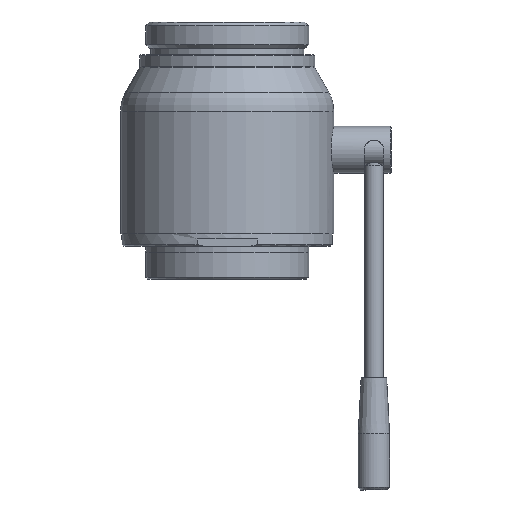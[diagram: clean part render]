
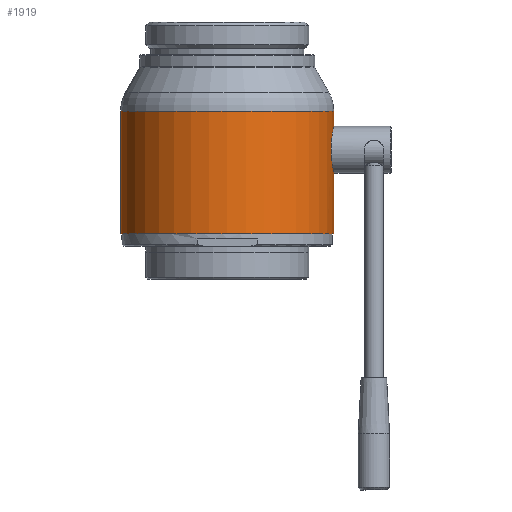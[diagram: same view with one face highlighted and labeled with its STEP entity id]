
A CAD part, left-side view. The second image highlights one B-rep face of the part: STEP entity #1919.
In plain terms, the highlighted cylindrical face has radius 85 mm (diameter 170 mm), a full revolution.
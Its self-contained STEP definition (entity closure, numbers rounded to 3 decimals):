
#87=B_SPLINE_CURVE_WITH_KNOTS('',3,(#4294,#4295,#4296,#4297,#4298,#4299,
#4300,#4301,#4302,#4303,#4304,#4305,#4306,#4307,#4308,#4309,#4310,#4311,
#4312,#4313,#4314,#4315,#4316,#4317,#4318,#4319,#4320,#4321,#4322,#4323,
#4324,#4325,#4326),.UNSPECIFIED.,.T.,.F.,(1,1,1,1,1,1,1,1,1,1,1,1,1,1,1,
1,1,1,1,1,1,1,1,1,1,1,1,1,1,1,1,1,1,1,1,1,1),(-0.015,-0.011,
-0.007,0.,0.004,0.007,
0.011,0.015,0.019,0.022,
0.026,0.03,0.034,0.037,
0.041,0.045,0.048,0.052,
0.056,0.06,0.067,0.071,
0.074,0.078,0.082,0.086,
0.089,0.093,0.097,0.101,
0.104,0.108,0.112,0.119,
0.123,0.127,0.13),.UNSPECIFIED.);
#245=ORIENTED_EDGE('',*,*,#666,.F.);
#246=ORIENTED_EDGE('',*,*,#668,.T.);
#247=ORIENTED_EDGE('',*,*,#662,.F.);
#662=EDGE_CURVE('',#879,#879,#1068,.T.);
#666=EDGE_CURVE('',#883,#883,#87,.T.);
#668=EDGE_CURVE('',#885,#885,#1072,.T.);
#879=VERTEX_POINT('',#4284);
#883=VERTEX_POINT('',#4327);
#885=VERTEX_POINT('',#4364);
#1068=CIRCLE('',#3232,85.);
#1072=CIRCLE('',#3240,85.);
#1251=EDGE_LOOP('',(#245));
#1252=EDGE_LOOP('',(#246));
#1253=EDGE_LOOP('',(#247));
#1564=FACE_BOUND('',#1251,.T.);
#1565=FACE_BOUND('',#1252,.T.);
#1566=FACE_BOUND('',#1253,.T.);
#1856=CYLINDRICAL_SURFACE('',#3239,85.);
#1919=ADVANCED_FACE('',(#1564,#1565,#1566),#1856,.T.);
#3232=AXIS2_PLACEMENT_3D('',#4283,#3589,#3590);
#3239=AXIS2_PLACEMENT_3D('',#4362,#3603,#3604);
#3240=AXIS2_PLACEMENT_3D('',#4363,#3605,#3606);
#3589=DIRECTION('',(0.,0.,1.));
#3590=DIRECTION('',(1.,0.,0.));
#3603=DIRECTION('',(0.,0.,1.));
#3604=DIRECTION('',(1.,0.,0.));
#3605=DIRECTION('',(0.,0.,1.));
#3606=DIRECTION('',(1.,0.,0.));
#4283=CARTESIAN_POINT('',(0.,0.,98.));
#4284=CARTESIAN_POINT('',(85.,0.,98.));
#4294=CARTESIAN_POINT('',(6.263,-84.824,85.342));
#4295=CARTESIAN_POINT('',(1.239,-85.057,86.348));
#4296=CARTESIAN_POINT('',(-3.734,-84.945,85.855));
#4297=CARTESIAN_POINT('',(-7.345,-84.706,84.755));
#4298=CARTESIAN_POINT('',(-10.621,-84.353,83.001));
#4299=CARTESIAN_POINT('',(-13.529,-83.931,80.614));
#4300=CARTESIAN_POINT('',(-15.888,-83.511,77.738));
#4301=CARTESIAN_POINT('',(-17.659,-83.15,74.439));
#4302=CARTESIAN_POINT('',(-18.753,-82.906,70.837));
#4303=CARTESIAN_POINT('',(-19.124,-82.821,67.121));
#4304=CARTESIAN_POINT('',(-18.752,-82.907,63.351));
#4305=CARTESIAN_POINT('',(-17.666,-83.148,59.784));
#4306=CARTESIAN_POINT('',(-15.896,-83.509,56.47));
#4307=CARTESIAN_POINT('',(-13.519,-83.932,53.579));
#4308=CARTESIAN_POINT('',(-10.65,-84.35,51.217));
#4309=CARTESIAN_POINT('',(-7.326,-84.707,49.437));
#4310=CARTESIAN_POINT('',(-3.767,-84.943,48.352));
#4311=CARTESIAN_POINT('',(1.252,-85.057,47.85));
#4312=CARTESIAN_POINT('',(6.211,-84.828,48.839));
#4313=CARTESIAN_POINT('',(10.636,-84.351,51.209));
#4314=CARTESIAN_POINT('',(13.504,-83.935,53.562));
#4315=CARTESIAN_POINT('',(15.894,-83.51,56.468));
#4316=CARTESIAN_POINT('',(17.651,-83.151,59.747));
#4317=CARTESIAN_POINT('',(18.752,-82.907,63.343));
#4318=CARTESIAN_POINT('',(19.122,-82.821,67.093));
#4319=CARTESIAN_POINT('',(18.759,-82.905,70.815));
#4320=CARTESIAN_POINT('',(17.661,-83.149,74.431));
#4321=CARTESIAN_POINT('',(15.907,-83.507,77.711));
#4322=CARTESIAN_POINT('',(13.53,-83.931,80.614));
#4323=CARTESIAN_POINT('',(10.641,-84.35,82.986));
#4324=CARTESIAN_POINT('',(6.263,-84.824,85.342));
#4325=CARTESIAN_POINT('',(1.239,-85.057,86.348));
#4326=CARTESIAN_POINT('',(-3.734,-84.945,85.855));
#4327=CARTESIAN_POINT('',(0.,-85.,86.1));
#4362=CARTESIAN_POINT('',(0.,0.,54.));
#4363=CARTESIAN_POINT('',(0.,0.,0.));
#4364=CARTESIAN_POINT('',(85.,0.,0.));
